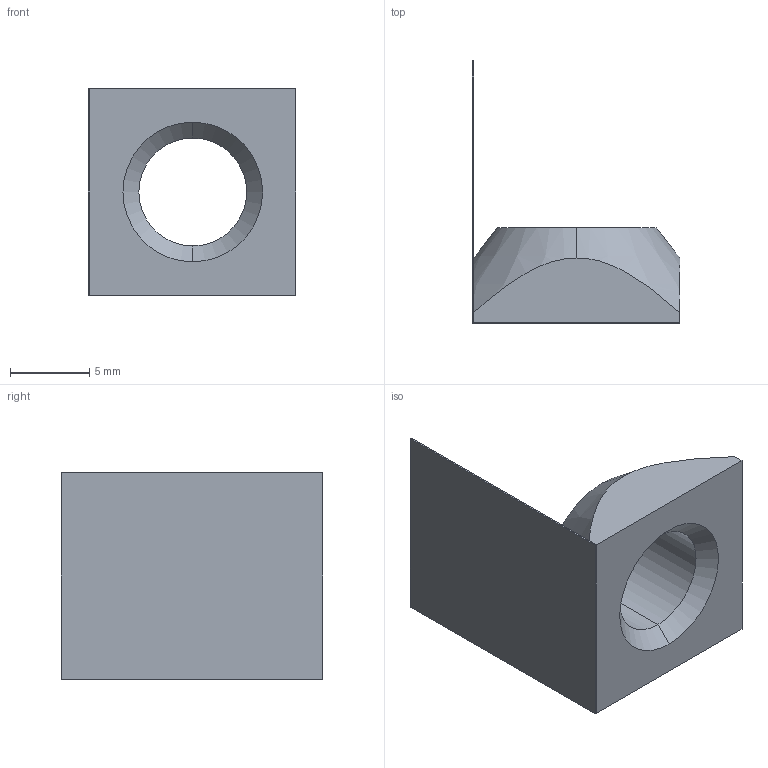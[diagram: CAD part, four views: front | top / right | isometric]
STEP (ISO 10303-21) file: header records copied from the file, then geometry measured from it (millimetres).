
FILE_DESCRIPTION (( 'STEP AP214' ), '1' );
FILE_NAME ('084.302.000 DADI MOLLA 13x13-1.STEP', '2019-05-23T15:22:36', ( '' ), ( '' ), 'SwSTEP 2.0', 'SolidWorks 2018', '' );
FILE_SCHEMA (( 'AUTOMOTIVE_DESIGN' ));
Length unit declared in the file: millimetre
Products named in the file (1): 084.302.000 DADI MOLLA 13x13-1
Bounding box: 13.1 x 16.5 x 13 mm (x, y, z)
Volume: 641.2 mm3; surface area: 1016 mm2
Topology: 2 solids, 2 shells, 20 faces, 44 edges, 28 vertices
Faces by surface type: plane 12, cone 6, cylinder 2
Entity records: 705 total; most frequent: CARTESIAN_POINT 195, DIRECTION 90, ORIENTED_EDGE 88, EDGE_CURVE 44, AXIS2_PLACEMENT_3D 31, LINE 28, VERTEX_POINT 28, VECTOR 28
